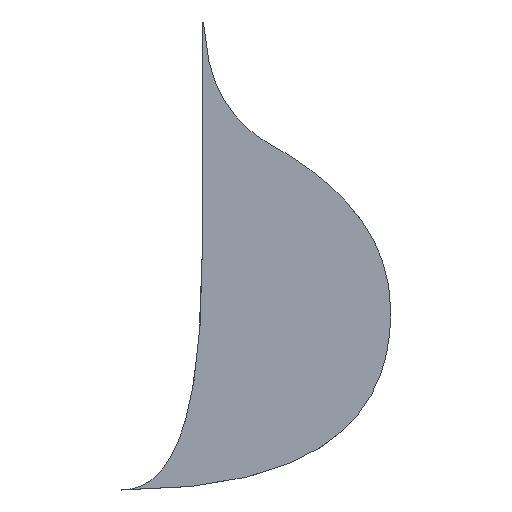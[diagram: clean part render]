
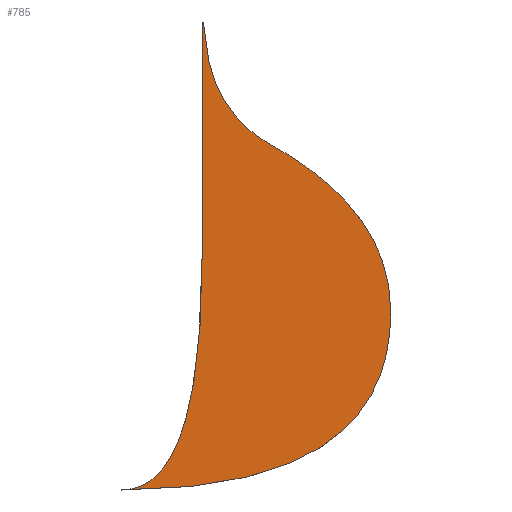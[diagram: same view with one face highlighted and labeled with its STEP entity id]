
A CAD part, top view. The second image highlights one B-rep face of the part: STEP entity #785.
In plain terms, the highlighted planar face has unit normal (0, 0, 1).
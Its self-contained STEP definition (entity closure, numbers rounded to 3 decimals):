
#32 = SURFACE_OF_LINEAR_EXTRUSION('',#33,#37);
#33 = B_SPLINE_CURVE_WITH_KNOTS('',2,(#34,#35,#36),.UNSPECIFIED.,.F.,.F.
  ,(3,3),(0.,1.),.PIECEWISE_BEZIER_KNOTS.);
#34 = CARTESIAN_POINT('',(15.,-293.8,0.));
#35 = CARTESIAN_POINT('',(57.,-293.8,0.));
#36 = CARTESIAN_POINT('',(57.,-172.999,0.));
#37 = VECTOR('',#38,1.);
#38 = DIRECTION('',(-0.,-0.,-1.));
#59 = VERTEX_POINT('',#60);
#60 = CARTESIAN_POINT('',(15.,-293.8,15.));
#74 = SURFACE_OF_LINEAR_EXTRUSION('',#75,#79);
#75 = B_SPLINE_CURVE_WITH_KNOTS('',2,(#76,#77,#78),.UNSPECIFIED.,.F.,.F.
  ,(3,3),(0.,1.),.PIECEWISE_BEZIER_KNOTS.);
#76 = CARTESIAN_POINT('',(15.,-293.8,0.));
#77 = CARTESIAN_POINT('',(155.,-293.8,0.));
#78 = CARTESIAN_POINT('',(155.,-201.3,0.));
#79 = VECTOR('',#80,1.);
#80 = DIRECTION('',(-0.,-0.,-1.));
#88 = EDGE_CURVE('',#59,#89,#91,.T.);
#89 = VERTEX_POINT('',#90);
#90 = CARTESIAN_POINT('',(57.,-172.999,15.));
#91 = SURFACE_CURVE('',#92,(#96,#103),.PCURVE_S1.);
#92 = B_SPLINE_CURVE_WITH_KNOTS('',2,(#93,#94,#95),.UNSPECIFIED.,.F.,.F.
  ,(3,3),(0.,1.),.PIECEWISE_BEZIER_KNOTS.);
#93 = CARTESIAN_POINT('',(15.,-293.8,15.));
#94 = CARTESIAN_POINT('',(57.,-293.8,15.));
#95 = CARTESIAN_POINT('',(57.,-172.999,15.));
#96 = PCURVE('',#32,#97);
#97 = DEFINITIONAL_REPRESENTATION('',(#98),#102);
#98 = LINE('',#99,#100);
#99 = CARTESIAN_POINT('',(0.,-15.));
#100 = VECTOR('',#101,1.);
#101 = DIRECTION('',(1.,0.));
#102 = ( GEOMETRIC_REPRESENTATION_CONTEXT(2) 
PARAMETRIC_REPRESENTATION_CONTEXT() REPRESENTATION_CONTEXT('2D SPACE',''
  ) );
#103 = PCURVE('',#104,#109);
#104 = PLANE('',#105);
#105 = AXIS2_PLACEMENT_3D('',#106,#107,#108);
#106 = CARTESIAN_POINT('',(78.285,-171.644,15.));
#107 = DIRECTION('',(0.,0.,1.));
#108 = DIRECTION('',(1.,0.,0.));
#109 = DEFINITIONAL_REPRESENTATION('',(#110),#114);
#110 = B_SPLINE_CURVE_WITH_KNOTS('',2,(#111,#112,#113),.UNSPECIFIED.,.F.
  ,.F.,(3,3),(0.,1.),.PIECEWISE_BEZIER_KNOTS.);
#111 = CARTESIAN_POINT('',(-63.285,-122.156));
#112 = CARTESIAN_POINT('',(-21.285,-122.156));
#113 = CARTESIAN_POINT('',(-21.285,-1.355));
#114 = ( GEOMETRIC_REPRESENTATION_CONTEXT(2) 
PARAMETRIC_REPRESENTATION_CONTEXT() REPRESENTATION_CONTEXT('2D SPACE',''
  ) );
#132 = PLANE('',#133);
#133 = AXIS2_PLACEMENT_3D('',#134,#135,#136);
#134 = CARTESIAN_POINT('',(57.,-172.999,0.));
#135 = DIRECTION('',(-1.,0.,0.));
#136 = DIRECTION('',(0.,1.,0.));
#318 = SURFACE_OF_LINEAR_EXTRUSION('',#319,#323);
#319 = B_SPLINE_CURVE_WITH_KNOTS('',2,(#320,#321,#322),.UNSPECIFIED.,.F.
  ,.F.,(3,3),(0.,1.),.PIECEWISE_BEZIER_KNOTS.);
#320 = CARTESIAN_POINT('',(155.,-201.3,0.));
#321 = CARTESIAN_POINT('',(155.,-148.3,0.));
#322 = CARTESIAN_POINT('',(90.89,-113.43,0.));
#323 = VECTOR('',#324,1.);
#324 = DIRECTION('',(-0.,-0.,-1.));
#350 = SURFACE_OF_LINEAR_EXTRUSION('',#351,#356);
#351 = B_SPLINE_CURVE_WITH_KNOTS('',3,(#352,#353,#354,#355),
  .UNSPECIFIED.,.F.,.F.,(4,4),(0.,1.),.PIECEWISE_BEZIER_KNOTS.);
#352 = CARTESIAN_POINT('',(57.,-14.83,0.));
#353 = CARTESIAN_POINT('',(57.,-56.76,0.));
#354 = CARTESIAN_POINT('',(55.62,-92.4,0.));
#355 = CARTESIAN_POINT('',(90.89,-113.43,0.));
#356 = VECTOR('',#357,1.);
#357 = DIRECTION('',(-0.,-0.,-1.));
#382 = CYLINDRICAL_SURFACE('',#383,45.269);
#383 = AXIS2_PLACEMENT_3D('',#384,#385,#386);
#384 = CARTESIAN_POINT('',(69.943,-7.441,0.));
#385 = DIRECTION('',(-0.,-0.,-1.));
#386 = DIRECTION('',(1.,0.,0.));
#720 = EDGE_CURVE('',#89,#721,#723,.T.);
#721 = VERTEX_POINT('',#722);
#722 = CARTESIAN_POINT('',(57.,-50.821,15.));
#723 = SURFACE_CURVE('',#724,(#728,#735),.PCURVE_S1.);
#724 = LINE('',#725,#726);
#725 = CARTESIAN_POINT('',(57.,-172.999,15.));
#726 = VECTOR('',#727,1.);
#727 = DIRECTION('',(0.,1.,0.));
#728 = PCURVE('',#132,#729);
#729 = DEFINITIONAL_REPRESENTATION('',(#730),#734);
#730 = LINE('',#731,#732);
#731 = CARTESIAN_POINT('',(0.,-15.));
#732 = VECTOR('',#733,1.);
#733 = DIRECTION('',(1.,0.));
#734 = ( GEOMETRIC_REPRESENTATION_CONTEXT(2) 
PARAMETRIC_REPRESENTATION_CONTEXT() REPRESENTATION_CONTEXT('2D SPACE',''
  ) );
#735 = PCURVE('',#104,#736);
#736 = DEFINITIONAL_REPRESENTATION('',(#737),#741);
#737 = LINE('',#738,#739);
#738 = CARTESIAN_POINT('',(-21.285,-1.355));
#739 = VECTOR('',#740,1.);
#740 = DIRECTION('',(0.,1.));
#741 = ( GEOMETRIC_REPRESENTATION_CONTEXT(2) 
PARAMETRIC_REPRESENTATION_CONTEXT() REPRESENTATION_CONTEXT('2D SPACE',''
  ) );
#785 = ADVANCED_FACE('',(#786),#104,.T.);
#786 = FACE_BOUND('',#787,.T.);
#787 = EDGE_LOOP('',(#788,#789,#812,#835,#860,#886));
#788 = ORIENTED_EDGE('',*,*,#88,.F.);
#789 = ORIENTED_EDGE('',*,*,#790,.T.);
#790 = EDGE_CURVE('',#59,#791,#793,.T.);
#791 = VERTEX_POINT('',#792);
#792 = CARTESIAN_POINT('',(155.,-201.3,15.));
#793 = SURFACE_CURVE('',#794,(#798,#805),.PCURVE_S1.);
#794 = B_SPLINE_CURVE_WITH_KNOTS('',2,(#795,#796,#797),.UNSPECIFIED.,.F.
  ,.F.,(3,3),(0.,1.),.PIECEWISE_BEZIER_KNOTS.);
#795 = CARTESIAN_POINT('',(15.,-293.8,15.));
#796 = CARTESIAN_POINT('',(155.,-293.8,15.));
#797 = CARTESIAN_POINT('',(155.,-201.3,15.));
#798 = PCURVE('',#104,#799);
#799 = DEFINITIONAL_REPRESENTATION('',(#800),#804);
#800 = B_SPLINE_CURVE_WITH_KNOTS('',2,(#801,#802,#803),.UNSPECIFIED.,.F.
  ,.F.,(3,3),(0.,1.),.PIECEWISE_BEZIER_KNOTS.);
#801 = CARTESIAN_POINT('',(-63.285,-122.156));
#802 = CARTESIAN_POINT('',(76.715,-122.156));
#803 = CARTESIAN_POINT('',(76.715,-29.656));
#804 = ( GEOMETRIC_REPRESENTATION_CONTEXT(2) 
PARAMETRIC_REPRESENTATION_CONTEXT() REPRESENTATION_CONTEXT('2D SPACE',''
  ) );
#805 = PCURVE('',#74,#806);
#806 = DEFINITIONAL_REPRESENTATION('',(#807),#811);
#807 = LINE('',#808,#809);
#808 = CARTESIAN_POINT('',(0.,-15.));
#809 = VECTOR('',#810,1.);
#810 = DIRECTION('',(1.,0.));
#811 = ( GEOMETRIC_REPRESENTATION_CONTEXT(2) 
PARAMETRIC_REPRESENTATION_CONTEXT() REPRESENTATION_CONTEXT('2D SPACE',''
  ) );
#812 = ORIENTED_EDGE('',*,*,#813,.T.);
#813 = EDGE_CURVE('',#791,#814,#816,.T.);
#814 = VERTEX_POINT('',#815);
#815 = CARTESIAN_POINT('',(90.89,-113.43,15.));
#816 = SURFACE_CURVE('',#817,(#821,#828),.PCURVE_S1.);
#817 = B_SPLINE_CURVE_WITH_KNOTS('',2,(#818,#819,#820),.UNSPECIFIED.,.F.
  ,.F.,(3,3),(0.,1.),.PIECEWISE_BEZIER_KNOTS.);
#818 = CARTESIAN_POINT('',(155.,-201.3,15.));
#819 = CARTESIAN_POINT('',(155.,-148.3,15.));
#820 = CARTESIAN_POINT('',(90.89,-113.43,15.));
#821 = PCURVE('',#104,#822);
#822 = DEFINITIONAL_REPRESENTATION('',(#823),#827);
#823 = B_SPLINE_CURVE_WITH_KNOTS('',2,(#824,#825,#826),.UNSPECIFIED.,.F.
  ,.F.,(3,3),(0.,1.),.PIECEWISE_BEZIER_KNOTS.);
#824 = CARTESIAN_POINT('',(76.715,-29.656));
#825 = CARTESIAN_POINT('',(76.715,23.344));
#826 = CARTESIAN_POINT('',(12.605,58.214));
#827 = ( GEOMETRIC_REPRESENTATION_CONTEXT(2) 
PARAMETRIC_REPRESENTATION_CONTEXT() REPRESENTATION_CONTEXT('2D SPACE',''
  ) );
#828 = PCURVE('',#318,#829);
#829 = DEFINITIONAL_REPRESENTATION('',(#830),#834);
#830 = LINE('',#831,#832);
#831 = CARTESIAN_POINT('',(0.,-15.));
#832 = VECTOR('',#833,1.);
#833 = DIRECTION('',(1.,0.));
#834 = ( GEOMETRIC_REPRESENTATION_CONTEXT(2) 
PARAMETRIC_REPRESENTATION_CONTEXT() REPRESENTATION_CONTEXT('2D SPACE',''
  ) );
#835 = ORIENTED_EDGE('',*,*,#836,.F.);
#836 = EDGE_CURVE('',#837,#814,#839,.T.);
#837 = VERTEX_POINT('',#838);
#838 = CARTESIAN_POINT('',(57.681,-51.018,15.));
#839 = SURFACE_CURVE('',#840,(#845,#853),.PCURVE_S1.);
#840 = B_SPLINE_CURVE_WITH_KNOTS('',3,(#841,#842,#843,#844),
  .UNSPECIFIED.,.F.,.F.,(4,4),(0.,1.),.PIECEWISE_BEZIER_KNOTS.);
#841 = CARTESIAN_POINT('',(57.,-14.83,15.));
#842 = CARTESIAN_POINT('',(57.,-56.76,15.));
#843 = CARTESIAN_POINT('',(55.62,-92.4,15.));
#844 = CARTESIAN_POINT('',(90.89,-113.43,15.));
#845 = PCURVE('',#104,#846);
#846 = DEFINITIONAL_REPRESENTATION('',(#847),#852);
#847 = B_SPLINE_CURVE_WITH_KNOTS('',3,(#848,#849,#850,#851),
  .UNSPECIFIED.,.F.,.F.,(4,4),(0.,1.),.PIECEWISE_BEZIER_KNOTS.);
#848 = CARTESIAN_POINT('',(-21.285,156.814));
#849 = CARTESIAN_POINT('',(-21.285,114.884));
#850 = CARTESIAN_POINT('',(-22.665,79.244));
#851 = CARTESIAN_POINT('',(12.605,58.214));
#852 = ( GEOMETRIC_REPRESENTATION_CONTEXT(2) 
PARAMETRIC_REPRESENTATION_CONTEXT() REPRESENTATION_CONTEXT('2D SPACE',''
  ) );
#853 = PCURVE('',#350,#854);
#854 = DEFINITIONAL_REPRESENTATION('',(#855),#859);
#855 = LINE('',#856,#857);
#856 = CARTESIAN_POINT('',(0.,-15.));
#857 = VECTOR('',#858,1.);
#858 = DIRECTION('',(1.,0.));
#859 = ( GEOMETRIC_REPRESENTATION_CONTEXT(2) 
PARAMETRIC_REPRESENTATION_CONTEXT() REPRESENTATION_CONTEXT('2D SPACE',''
  ) );
#860 = ORIENTED_EDGE('',*,*,#861,.T.);
#861 = EDGE_CURVE('',#837,#721,#862,.T.);
#862 = SURFACE_CURVE('',#863,(#868,#879),.PCURVE_S1.);
#863 = CIRCLE('',#864,45.269);
#864 = AXIS2_PLACEMENT_3D('',#865,#866,#867);
#865 = CARTESIAN_POINT('',(69.943,-7.441,15.));
#866 = DIRECTION('',(0.,0.,-1.));
#867 = DIRECTION('',(1.,0.,0.));
#868 = PCURVE('',#104,#869);
#869 = DEFINITIONAL_REPRESENTATION('',(#870),#878);
#870 = ( BOUNDED_CURVE() B_SPLINE_CURVE(2,(#871,#872,#873,#874,#875,#876
,#877),.UNSPECIFIED.,.T.,.F.) B_SPLINE_CURVE_WITH_KNOTS((1,2,2,2,2,1),(
    -2.094,0.,2.094,4.189,6.283,
8.378),.UNSPECIFIED.) CURVE() GEOMETRIC_REPRESENTATION_ITEM() 
RATIONAL_B_SPLINE_CURVE((1.,0.5,1.,0.5,1.,0.5,1.)) REPRESENTATION_ITEM(
  '') );
#871 = CARTESIAN_POINT('',(36.927,164.203));
#872 = CARTESIAN_POINT('',(36.927,85.794));
#873 = CARTESIAN_POINT('',(-30.977,124.999));
#874 = CARTESIAN_POINT('',(-98.881,164.203));
#875 = CARTESIAN_POINT('',(-30.977,203.407));
#876 = CARTESIAN_POINT('',(36.927,242.612));
#877 = CARTESIAN_POINT('',(36.927,164.203));
#878 = ( GEOMETRIC_REPRESENTATION_CONTEXT(2) 
PARAMETRIC_REPRESENTATION_CONTEXT() REPRESENTATION_CONTEXT('2D SPACE',''
  ) );
#879 = PCURVE('',#382,#880);
#880 = DEFINITIONAL_REPRESENTATION('',(#881),#885);
#881 = LINE('',#882,#883);
#882 = CARTESIAN_POINT('',(-6.283,-15.));
#883 = VECTOR('',#884,1.);
#884 = DIRECTION('',(1.,-0.));
#885 = ( GEOMETRIC_REPRESENTATION_CONTEXT(2) 
PARAMETRIC_REPRESENTATION_CONTEXT() REPRESENTATION_CONTEXT('2D SPACE',''
  ) );
#886 = ORIENTED_EDGE('',*,*,#720,.F.);
